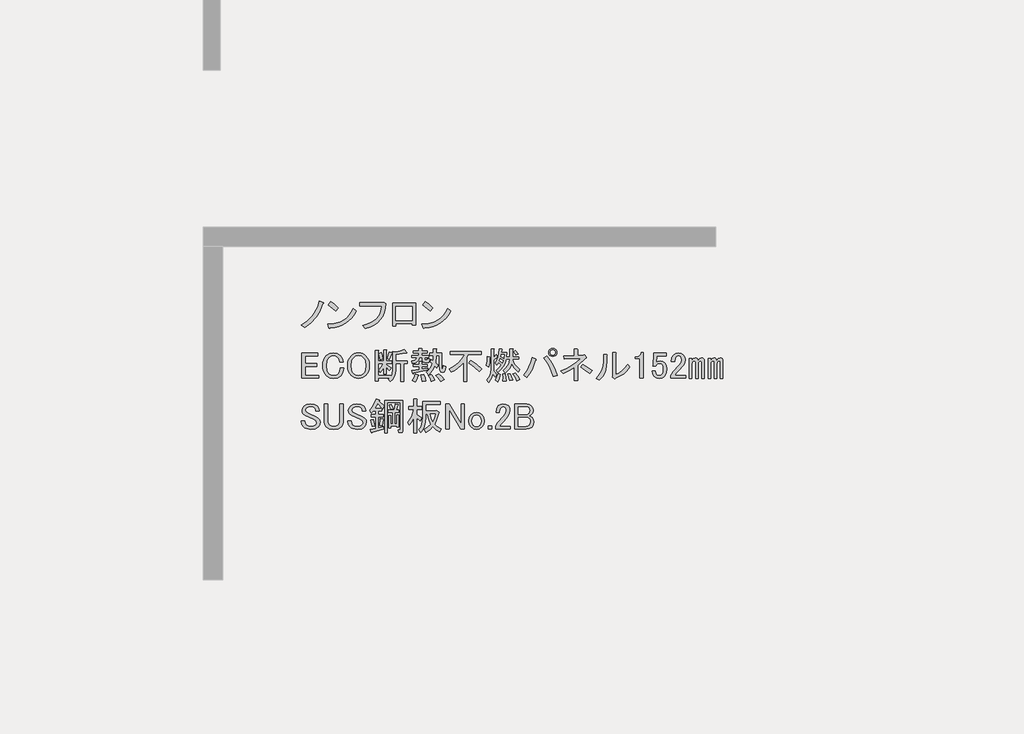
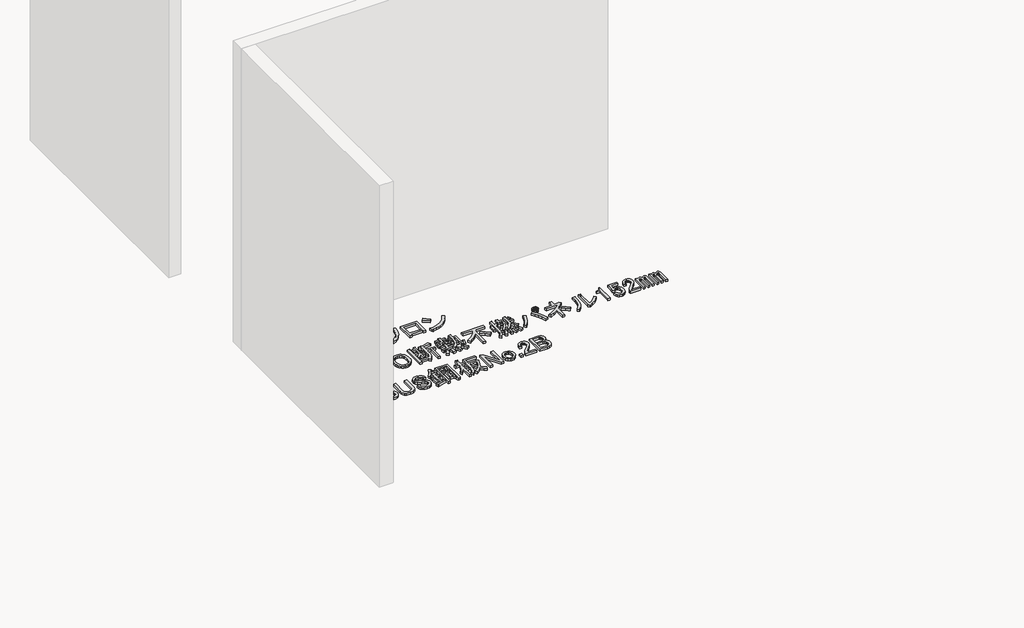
# One storey, part 53 of 117: 1 proxy.
"""IFC4 building model written with IfcOpenShell, lengths in millimetres."""

from ifc_helpers import new_model, si_unit, frame, origin, place, context, project, spatial, polyline, outline, extrude, element, save

model = new_model("IFC4")

# Units and contexts
model_context = context("Model", 3, world=origin())
ifc_project = project(units=[si_unit("LENGTHUNIT", "METRE", prefix="MILLI")], contexts=[model_context])

# Site, building, storey
site = spatial("IfcSite", under=ifc_project)
building = spatial("IfcBuilding", under=site)
storey = spatial("IfcBuildingStorey", under=building, Name="レベル 1", Elevation=500.0)

# Proxy
placement = place(None, origin())
element("IfcBuildingElementProxy", 1, Name="200㎜\u3000MS Pゴシック", ObjectType="200㎜\u3000MS Pゴシック", at=placement, inside=storey, context=model_context, shape_type="SweptSolid", body=[
    extrude(outline(polyline([(40940.1706985, -16603.5496882), (40914.5952502, -16663.3215225), (40886.146156, -16709.2998566), (40844.4782907, -16754.7034615), (40795.3389462, -16792.060858), (40767.7519457, -16770.2211493), (40815.4544673, -16739.7605029), (40855.1107805, -16701.2536481), (40872.4963381, -16677.3305462), (40887.8703435, -16649.2406577), (40901.2327969, -16616.9839827), (40912.5836981, -16580.5605212), (40943.6190736, -16594.3540214), (40946.7800841, -16598.9518548), (40940.1706985, -16603.5496882)])), frame((0.0, 0.0, 500.0), z_axis=(0.0, 0.0, 1.0), x_axis=(1.0, 0.0, 0.0)), (0.0, 0.0, 1.0), 25.0),
    extrude(outline(polyline([(41039.8977052, -16658.7236891), (40981.2753292, -16611.5958967), (41000.8161212, -16587.4572713), (41028.1157571, -16607.2854279), (41061.7374138, -16636.8839804), (41039.8977052, -16658.7236891)])), frame((0.0, 0.0, 500.0), z_axis=(0.0, 0.0, 1.0), x_axis=(1.0, 0.0, 0.0)), (0.0, 0.0, 1.0), 25.0),
    extrude(outline(polyline([(41201.9713328, -16658.7236891), (41185.447869, -16688.465924), (41166.3381239, -16714.4724192), (41144.6420975, -16736.7431748), (41120.3597898, -16755.2781907), (41093.4912008, -16770.077467), (41064.0363306, -16781.1410036), (41031.995179, -16788.4688006), (40997.3677461, -16792.060858), (40991.6204544, -16800.1070664), (40985.8731626, -16794.3597747), (40976.6774958, -16764.4738575), (41012.5082679, -16761.7977748), (41045.2857912, -16755.4937141), (41075.0100658, -16745.5616756), (41101.6810916, -16732.0016591), (41125.2988687, -16714.8136646), (41145.863397, -16693.9976923), (41163.3746766, -16669.553742), (41177.8327074, -16641.4818138), (41201.9713328, -16658.7236891)])), frame((0.0, 0.0, 500.0), z_axis=(0.0, 0.0, 1.0), x_axis=(1.0, 0.0, 0.0)), (0.0, 0.0, 1.0), 25.0),
    extrude(outline(polyline([(41252.7314136, -16773.6695243), (41286.514713, -16763.9889298), (41316.0234641, -16751.6142922), (41341.257667, -16736.5456116), (41362.2173217, -16718.782888), (41378.902428, -16698.3261214), (41391.3129862, -16675.1753118), (41399.4489961, -16649.3304591), (41403.3104577, -16620.7915635), (41230.8917049, -16620.7915635), (41230.8917049, -16595.5034798), (41405.6093744, -16595.5034798), (41421.7017914, -16592.0551047), (41434.3458332, -16603.5496882), (41430.825617, -16640.0449909), (41422.5638851, -16673.0919185), (41409.5606375, -16702.6904711), (41391.8158742, -16728.8406486), (41369.3295952, -16751.542451), (41342.1018005, -16770.7958784), (41310.1324901, -16786.6009308), (41273.421664, -16798.9576081), (41252.7314136, -16773.6695243)])), frame((0.0, 0.0, 500.0), z_axis=(0.0, 0.0, 1.0), x_axis=(1.0, 0.0, 0.0)), (0.0, 0.0, 1.0), 25.0),
    extrude(outline(polyline([(41667.455987, -16772.520066), (41641.0184449, -16772.520066), (41641.0184449, -16759.8760241), (41513.4285679, -16759.8760241), (41513.4285679, -16778.2673577), (41486.9910258, -16778.2673577), (41486.9910258, -16598.9518548), (41667.455987, -16598.9518548), (41667.455987, -16772.520066)]), holes=[polyline([(41513.4285679, -16624.2399386), (41513.4285679, -16734.5879404), (41641.0184449, -16734.5879404), (41641.0184449, -16624.2399386), (41513.4285679, -16624.2399386)])]), frame((0.0, 0.0, 500.0), z_axis=(0.0, 0.0, 1.0), x_axis=(1.0, 0.0, 0.0)), (0.0, 0.0, 1.0), 25.0),
    extrude(outline(polyline([(41943.5099049, -16658.7236891), (41926.9864411, -16688.465924), (41907.876696, -16714.4724192), (41886.1806696, -16736.7431748), (41861.8983619, -16755.2781907), (41835.0297729, -16770.077467), (41805.5749026, -16781.1410036), (41773.5337511, -16788.4688006), (41738.9063182, -16792.060858), (41733.1590264, -16800.1070664), (41727.4117347, -16794.3597747), (41718.2160679, -16764.4738575), (41754.0468399, -16761.7977748), (41786.8243633, -16755.4937141), (41816.5486378, -16745.5616756), (41843.2196637, -16732.0016591), (41866.8374407, -16714.8136646), (41887.4019691, -16693.9976923), (41904.9132486, -16669.553742), (41919.3712795, -16641.4818138), (41943.5099049, -16658.7236891)])), frame((0.0, 0.0, 500.0), z_axis=(0.0, 0.0, 1.0), x_axis=(1.0, 0.0, 0.0)), (0.0, 0.0, 1.0), 25.0),
    extrude(outline(polyline([(41781.4362772, -16658.7236891), (41722.8139013, -16611.5958967), (41742.3546933, -16587.4572713), (41769.6543291, -16607.2854279), (41803.2759859, -16636.8839804), (41781.4362772, -16658.7236891)])), frame((0.0, 0.0, 500.0), z_axis=(0.0, 0.0, 1.0), x_axis=(1.0, 0.0, 0.0)), (0.0, 0.0, 1.0), 25.0),
    extrude(outline(polyline([(40773.4992375, -16992.0551047), (40899.9396562, -16992.0551047), (40899.9396562, -17013.8948134), (40799.9367796, -17013.8948134), (40799.9367796, -17074.816106), (40893.0429061, -17074.816106), (40893.0429061, -17096.6558147), (40799.9367796, -17096.6558147), (40799.9367796, -17166.7727742), (40905.686948, -17166.7727742), (40905.686948, -17188.6124829), (40773.4992375, -17188.6124829), (40773.4992375, -16992.0551047)])), frame((0.0, 0.0, 500.0), z_axis=(0.0, 0.0, 1.0), x_axis=(1.0, 0.0, 0.0)), (0.0, 0.0, 1.0), 25.0),
    extrude(outline(polyline([(40937.7798252, -17090.908523), (40939.5758538, -17066.985421), (40944.9639399, -17045.7922827), (40953.9440832, -17027.3291079), (40966.516284, -17011.5958967), (40991.5170031, -16995.2161152), (41022.8397432, -16989.756188), (41053.5877541, -16994.641386), (41076.8642858, -17009.29698), (41092.6693381, -17032.8608762), (41098.7039944, -17062.1720642), (41071.116994, -17062.1720642), (41066.231796, -17040.9070847), (41056.1740354, -17025.3893969), (41040.9437123, -17015.0442717), (41022.8397432, -17011.5958967), (41003.2989512, -17015.6190009), (40986.0570759, -17027.6883136), (40977.0050914, -17039.3984206), (40970.5393882, -17053.8384911), (40965.3668256, -17090.908523), (40970.5393882, -17127.9785548), (40977.0050914, -17142.4186254), (40986.0570759, -17154.1287323), (41002.7242221, -17165.3359513), (41022.8397432, -17169.0716909), (41043.242629, -17165.9106804), (41058.4729521, -17156.427649), (41070.5422648, -17136.8868571), (41074.5653691, -17110.449315), (41102.1523695, -17110.449315), (41095.8303486, -17145.2204301), (41088.7899162, -17159.3731361), (41079.1632025, -17171.3706076), (41068.3151893, -17179.9197041), (41055.3119417, -17186.0262016), (41022.8397432, -17190.9113996), (40991.5170031, -17185.4514724), (40966.516284, -17169.0716909), (40953.9440832, -17153.4103209), (40944.9639399, -17135.1626695), (40939.5758538, -17114.3287369), (40937.7798252, -17090.908523)])), frame((0.0, 0.0, 500.0), z_axis=(0.0, 0.0, 1.0), x_axis=(1.0, 0.0, 0.0)), (0.0, 0.0, 1.0), 25.0),
    extrude(outline(polyline([(41133.1417667, -17089.7590646), (41134.8659542, -17066.9135799), (41140.0385168, -17046.6543764), (41148.6594544, -17028.9814543), (41160.7287671, -17013.8948134), (41173.4446501, -17003.3341648), (41187.4536738, -16995.7908443), (41202.7558381, -16991.2648521), (41219.3511431, -16989.756188), (41235.946448, -16991.2648521), (41251.2486123, -16995.7908443), (41265.257636, -17003.3341648), (41277.973519, -17013.8948134), (41290.0428317, -17028.9814543), (41298.6637694, -17046.6543764), (41303.836332, -17066.9135799), (41305.5605195, -17089.7590646), (41303.836332, -17112.6045494), (41298.6637694, -17132.8637528), (41290.0428317, -17150.536675), (41277.973519, -17165.6233159), (41265.257636, -17176.1839645), (41251.2486123, -17183.7272849), (41235.946448, -17188.2532772), (41219.3511431, -17189.7619413), (41202.7558381, -17188.2532772), (41187.4536738, -17183.7272849), (41173.4446501, -17176.1839645), (41160.7287671, -17165.6233159), (41148.6594544, -17150.536675), (41140.0385168, -17132.8637528), (41134.8659542, -17112.6045494), (41133.1417667, -17089.7590646)]), holes=[polyline([(41219.3511431, -17011.5958967), (41198.6608927, -17015.9063655), (41180.2695591, -17028.837772), (41171.7204626, -17039.9731498), (41165.6139651, -17053.8384911), (41160.7287671, -17089.7590646), (41165.6139651, -17125.6796381), (41171.7204626, -17139.5449795), (41180.2695591, -17150.6803573), (41198.6608927, -17163.6117637), (41219.3511431, -17167.9222326), (41240.0413934, -17163.6117637), (41258.432727, -17150.6803573), (41266.9818235, -17139.5449795), (41273.088321, -17125.6796381), (41277.973519, -17089.7590646), (41273.088321, -17053.8384911), (41266.9818235, -17039.9731498), (41258.432727, -17028.837772), (41240.0413934, -17015.9063655), (41219.3511431, -17011.5958967)])]), frame((0.0, 0.0, 500.0), z_axis=(0.0, 0.0, 1.0), x_axis=(1.0, 0.0, 0.0)), (0.0, 0.0, 1.0), 25.0),
    extrude(outline(polyline([(41444.3691101, -17035.7345221), (41461.6109854, -16982.8594379), (41482.3012357, -16988.6067296), (41484.0254232, -16991.7677401), (41480.002319, -16994.3540214), (41462.7604437, -17042.6312722), (41444.3691101, -17035.7345221)])), frame((0.0, 0.0, 500.0), z_axis=(0.0, 0.0, 1.0), x_axis=(1.0, 0.0, 0.0)), (0.0, 0.0, 1.0), 25.0),
    extrude(outline(polyline([(41598.3965292, -16987.4572713), (41596.6723417, -16992.0551047), (41589.2008624, -16989.756188), (41512.1871528, -17002.4002299), (41512.1871528, -17051.826939), (41604.143821, -17051.826939), (41604.143821, -17073.6666477), (41573.1084455, -17073.6666477), (41573.1084455, -17213.9005666), (41550.1192785, -17213.9005666), (41550.1192785, -17073.6666477), (41512.1871528, -17073.6666477), (41512.1871528, -17123.0933568), (41509.6008716, -17150.8958807), (41501.8420277, -17175.6810764), (41488.9106212, -17197.448944), (41470.8066522, -17216.1994833), (41453.5647769, -17196.6586914), (41463.9099021, -17187.4630245), (41374.2521506, -17187.4630245), (41374.2521506, -17209.3027332), (41351.2629836, -17209.3027332), (41351.2629836, -16970.215396), (41373.1026922, -16970.215396), (41377.9878902, -16972.5143127), (41374.2521506, -16977.1121461), (41374.2521506, -17052.9763974), (41416.7821096, -17052.9763974), (41416.7821096, -16965.6175626), (41435.1734433, -16965.6175626), (41440.0586413, -16967.9164793), (41436.3229016, -16972.5143127), (41436.3229016, -17052.9763974), (41480.002319, -17052.9763974), (41480.002319, -17071.367731), (41436.3229016, -17071.367731), (41436.3229016, -17080.5633978), (41476.5539439, -17107.0009399), (41462.7604437, -17128.8406486), (41436.3229016, -17102.4031065), (41436.3229016, -17155.2781907), (41416.7821096, -17155.2781907), (41416.7821096, -17107.0009399), (41403.5633386, -17126.8290965), (41389.1951092, -17142.6341488), (41376.5510673, -17124.2428152), (41398.390776, -17100.1041898), (41415.6326513, -17071.367731), (41374.2521506, -17071.367731), (41374.2521506, -17165.6233159), (41471.9561105, -17165.6233159), (41471.9561105, -17179.4168161), (41484.887517, -17155.2781907), (41489.1979858, -17121.9438985), (41489.1979858, -16977.1121461), (41511.0376945, -16982.8594379), (41547.2456326, -16975.3879586), (41577.7062789, -16962.1691875), (41598.3965292, -16987.4572713)])), frame((0.0, 0.0, 500.0), z_axis=(0.0, 0.0, 1.0), x_axis=(1.0, 0.0, 0.0)), (0.0, 0.0, 1.0), 25.0),
    extrude(outline(polyline([(41390.3445675, -17043.7807305), (41377.7005257, -16993.2045631), (41397.2413176, -16986.3078129), (41405.0001615, -17010.4464383), (41409.8853595, -17036.8839804), (41390.3445675, -17043.7807305)])), frame((0.0, 0.0, 500.0), z_axis=(0.0, 0.0, 1.0), x_axis=(1.0, 0.0, 0.0)), (0.0, 0.0, 1.0), 25.0),
    extrude(outline(polyline([(41734.0326148, -17159.8760241), (41744.0903754, -17187.17566), (41748.9755734, -17209.3027332), (41720.2391146, -17215.050025), (41717.6528333, -17193.4976809), (41709.8939894, -17163.3243992), (41734.0326148, -17159.8760241)])), frame((0.0, 0.0, 500.0), z_axis=(0.0, 0.0, 1.0), x_axis=(1.0, 0.0, 0.0)), (0.0, 0.0, 1.0), 25.0),
    extrude(outline(polyline([(41790.356074, -17212.7511083), (41782.022501, -17188.0377537), (41768.5163654, -17166.7727742), (41789.2066157, -17158.7265657), (41806.1611264, -17180.2789098), (41817.9430745, -17203.5554415), (41790.356074, -17212.7511083)])), frame((0.0, 0.0, 500.0), z_axis=(0.0, 0.0, 1.0), x_axis=(1.0, 0.0, 0.0)), (0.0, 0.0, 1.0), 25.0),
    extrude(outline(polyline([(41689.2037391, -17164.4738575), (41692.6521141, -17169.3590555), (41686.9048224, -17172.520066), (41677.1344264, -17198.0955143), (41666.214572, -17217.3489417), (41643.225405, -17205.8543582), (41655.8694469, -17182.290462), (41666.214572, -17155.2781907), (41689.2037391, -17164.4738575)])), frame((0.0, 0.0, 500.0), z_axis=(0.0, 0.0, 1.0), x_axis=(1.0, 0.0, 0.0)), (0.0, 0.0, 1.0), 25.0),
    extrude(outline(polyline([(41721.3885729, -17027.6883136), (41696.1004892, -17027.6883136), (41691.5026558, -17045.1457123), (41681.1575306, -17058.4363245), (41665.0651137, -17067.5601502), (41643.225405, -17072.5171893), (41638.6275716, -17052.9763974), (41663.9156553, -17044.3554597), (41671.3871346, -17037.0276627), (41675.4102388, -17027.6883136), (41639.7770299, -17027.6883136), (41639.7770299, -17009.29698), (41693.8015725, -17009.29698), (41693.8015725, -16992.0551047), (41650.1221551, -16992.0551047), (41650.1221551, -16973.6637711), (41693.8015725, -16973.6637711), (41693.8015725, -16955.2724374), (41715.6412812, -16955.2724374), (41720.5264792, -16957.5713541), (41716.7907395, -16962.1691875), (41716.7907395, -16973.6637711), (41759.3206985, -16973.6637711), (41759.3206985, -16992.0551047), (41716.7907395, -16992.0551047), (41716.7907395, -17009.29698), (41769.6658237, -17009.29698), (41769.6658237, -17027.6883136), (41740.9293649, -17027.6883136), (41740.9293649, -17040.3323555), (41742.3661878, -17045.5049181), (41746.6766567, -17047.2291056), (41757.0217818, -17047.2291056), (41760.7575215, -17044.0680951), (41760.4701569, -17034.5850637), (41780.0109489, -17036.8839804), (41777.137303, -17058.4363245), (41771.8210581, -17063.8244106), (41763.9185319, -17065.6204392), (41739.7799066, -17065.6204392), (41725.9864063, -17060.7352412), (41721.3885729, -17046.0796472), (41721.3885729, -17027.6883136)])), frame((0.0, 0.0, 500.0), z_axis=(0.0, 0.0, 1.0), x_axis=(1.0, 0.0, 0.0)), (0.0, 0.0, 1.0), 25.0),
    extrude(outline(polyline([(41852.4268251, -17010.4464383), (41830.5871164, -17010.4464383), (41825.989283, -17067.9193559), (41845.5300749, -17086.3106896), (41835.1849498, -17108.1503983), (41819.0925328, -17092.0579813), (41799.8391054, -17129.7027424), (41769.6658237, -17162.1749408), (41752.4239484, -17141.4846905), (41767.5105893, -17129.5590601), (41780.585678, -17114.4724192), (41791.6492147, -17096.2247679), (41800.7011992, -17074.816106), (41783.4593239, -17059.8731475), (41791.5055324, -17042.6312722), (41805.2990326, -17052.9763974), (41807.5979493, -17010.4464383), (41780.0109489, -17010.4464383), (41780.0109489, -16992.0551047), (41807.5979493, -16992.0551047), (41807.5979493, -16957.5713541), (41829.437658, -16957.5713541), (41834.322856, -16959.8702708), (41830.5871164, -16964.4681043), (41830.5871164, -16992.0551047), (41871.967617, -16992.0551047), (41871.967617, -17088.6096063), (41875.4159921, -17112.7482317), (41878.6488437, -17114.7597838), (41881.4506484, -17111.5987733), (41885.7611173, -17089.7590646), (41905.3019092, -17096.6558147), (41900.775917, -17123.4525626), (41892.945232, -17139.4731384), (41881.8098542, -17144.7175421), (41867.3697836, -17139.1857738), (41860.8322393, -17131.8579768), (41856.1625647, -17120.219711), (41852.4268251, -17084.0117729), (41852.4268251, -17010.4464383)])), frame((0.0, 0.0, 500.0), z_axis=(0.0, 0.0, 1.0), x_axis=(1.0, 0.0, 0.0)), (0.0, 0.0, 1.0), 25.0),
    extrude(outline(polyline([(41651.2716134, -17149.5308989), (41649.2600613, -17154.4160969), (41645.5243217, -17152.979274), (41639.7770299, -17128.8406486), (41694.9510308, -17120.7944401), (41694.9510308, -17097.8052731), (41651.2716134, -17097.8052731), (41651.2716134, -17079.4139395), (41694.9510308, -17079.4139395), (41694.9510308, -17056.4247724), (41713.3423645, -17056.4247724), (41718.2275625, -17058.7236891), (41714.4918228, -17063.3215225), (41714.4918228, -17079.4139395), (41759.3206985, -17079.4139395), (41759.3206985, -17097.8052731), (41714.4918228, -17097.8052731), (41714.4918228, -17117.3460651), (41765.0679903, -17108.1503983), (41765.0679903, -17124.2428152), (41651.2716134, -17149.5308989)])), frame((0.0, 0.0, 500.0), z_axis=(0.0, 0.0, 1.0), x_axis=(1.0, 0.0, 0.0)), (0.0, 0.0, 1.0), 25.0),
    extrude(outline(polyline([(41848.97845, -17154.1287323), (41873.6918046, -17175.3937119), (41892.6578674, -17200.1070664), (41866.2203253, -17215.050025), (41846.9668979, -17185.4514724), (41828.2881997, -17165.6233159), (41848.97845, -17154.1287323)])), frame((0.0, 0.0, 500.0), z_axis=(0.0, 0.0, 1.0), x_axis=(1.0, 0.0, 0.0)), (0.0, 0.0, 1.0), 25.0),
    extrude(outline(polyline([(42167.3784135, -17138.0363154), (42128.2968295, -17099.8168252), (42086.9163289, -17070.2182726), (42103.0087458, -17049.5280223), (42146.6881632, -17077.6897519), (42188.0686638, -17116.1966067), (42167.3784135, -17138.0363154)])), frame((0.0, 0.0, 500.0), z_axis=(0.0, 0.0, 1.0), x_axis=(1.0, 0.0, 0.0)), (0.0, 0.0, 1.0), 25.0),
    extrude(outline(polyline([(41940.9351182, -16977.1121461), (42182.3213721, -16977.1121461), (42182.3213721, -17002.4002299), (42082.3184955, -17002.4002299), (42071.9733703, -17026.5388553), (42071.9733703, -17212.7511083), (42045.5358282, -17212.7511083), (42045.5358282, -17065.6204392), (42024.7018956, -17088.8969709), (42001.2816816, -17109.2998566), (41975.2751864, -17126.8290965), (41946.6824099, -17141.4846905), (41930.589993, -17115.0471484), (41970.174465, -17094.6442626), (42003.8679629, -17069.0688143), (42031.6704868, -17038.3208034), (42053.5820367, -17002.4002299), (41940.9351182, -17002.4002299), (41940.9351182, -16977.1121461)])), frame((0.0, 0.0, 500.0), z_axis=(0.0, 0.0, 1.0), x_axis=(1.0, 0.0, 0.0)), (0.0, 0.0, 1.0), 25.0),
    extrude(outline(polyline([(42354.7401249, -17211.6016499), (42355.3148541, -17184.5893787), (42352.4412082, -17156.427649), (42371.9820002, -17155.2781907), (42378.3040211, -17181.4283682), (42378.8787503, -17209.3027332), (42354.7401249, -17211.6016499)])), frame((0.0, 0.0, 500.0), z_axis=(0.0, 0.0, 1.0), x_axis=(1.0, 0.0, 0.0)), (0.0, 0.0, 1.0), 25.0),
    extrude(outline(polyline([(42335.1993329, -17159.8760241), (42326.5783953, -17190.3366704), (42312.2101659, -17217.3489417), (42292.6693739, -17204.7048998), (42306.7502387, -17179.9915453), (42316.8079993, -17151.8298156), (42335.1993329, -17159.8760241)])), frame((0.0, 0.0, 500.0), z_axis=(0.0, 0.0, 1.0), x_axis=(1.0, 0.0, 0.0)), (0.0, 0.0, 1.0), 25.0),
    extrude(outline(polyline([(42250.1394149, -17021.9410219), (42254.7372483, -17024.2399386), (42250.1394149, -17028.837772), (42248.9899565, -17068.4940851), (42243.2426647, -17102.4031065), (42224.8513311, -17089.7590646), (42230.5986229, -17055.2753141), (42231.7480812, -17018.4926468), (42250.1394149, -17021.9410219)])), frame((0.0, 0.0, 500.0), z_axis=(0.0, 0.0, 1.0), x_axis=(1.0, 0.0, 0.0)), (0.0, 0.0, 1.0), 25.0),
    extrude(outline(polyline([(42301.8650407, -17003.5496882), (42311.0607075, -17020.7915635), (42312.4975305, -17026.8262199), (42307.6123325, -17026.5388553), (42281.1747904, -17047.2291056), (42281.1747904, -17131.1395653), (42294.9682906, -17143.4962426), (42306.4628741, -17159.8760241), (42293.8188322, -17180.5662744), (42275.4274986, -17155.2781907), (42263.6455505, -17191.1987642), (42242.0932064, -17220.7973168), (42227.1502478, -17202.4059831), (42242.2368887, -17183.6554438), (42253.0130607, -17163.0370346), (42259.478764, -17140.5507556), (42261.6339984, -17116.1966067), (42261.6339984, -16958.7208125), (42280.025332, -16958.7208125), (42284.91053, -16961.0197292), (42281.1747904, -16965.6175626), (42281.1747904, -17024.2399386), (42301.8650407, -17003.5496882)])), frame((0.0, 0.0, 500.0), z_axis=(0.0, 0.0, 1.0), x_axis=(1.0, 0.0, 0.0)), (0.0, 0.0, 1.0), 25.0),
    extrude(outline(polyline([(42452.4440848, -16972.5143127), (42474.2837935, -16996.6529381), (42457.0419182, -17008.1475216), (42450.4325327, -16996.6529381), (42437.5011262, -16982.8594379), (42452.4440848, -16972.5143127)])), frame((0.0, 0.0, 500.0), z_axis=(0.0, 0.0, 1.0), x_axis=(1.0, 0.0, 0.0)), (0.0, 0.0, 1.0), 25.0),
    extrude(outline(polyline([(42462.78921, -17209.3027332), (42449.5704389, -17181.1410036), (42432.9032928, -17156.427649), (42451.2946265, -17148.3814406), (42470.2606893, -17171.3706076), (42485.778377, -17198.9576081), (42462.78921, -17209.3027332)])), frame((0.0, 0.0, 500.0), z_axis=(0.0, 0.0, 1.0), x_axis=(1.0, 0.0, 0.0)), (0.0, 0.0, 1.0), 25.0),
    extrude(outline(polyline([(42413.3625008, -17154.1287323), (42431.7538345, -17203.5554415), (42407.6152091, -17208.1532749), (42393.8217089, -17157.5771074), (42413.3625008, -17154.1287323)])), frame((0.0, 0.0, 500.0), z_axis=(0.0, 0.0, 1.0), x_axis=(1.0, 0.0, 0.0)), (0.0, 0.0, 1.0), 25.0),
    extrude(outline(polyline([(42474.2837935, -17139.1857738), (42443.5357826, -17108.7251274), (42422.5581677, -17074.816106), (42414.1527535, -17096.9431793), (42402.7300111, -17116.1966067), (42388.2899405, -17132.5763882), (42370.8325418, -17146.0825239), (42357.0390416, -17127.6911902), (42377.8729742, -17108.7969686), (42393.2469797, -17087.7475125), (42403.161058, -17064.542822), (42407.6152091, -17039.1828971), (42378.8787503, -17039.1828971), (42370.904383, -17069.7872258), (42357.3264062, -17097.2305439), (42338.1448199, -17121.5128516), (42313.3596242, -17142.6341488), (42300.7155823, -17126.5417319), (42326.5783953, -17104.9893878), (42342.096083, -17084.0117729), (42320.2563743, -17064.4709809), (42306.4628741, -17085.1612312), (42292.6693739, -17070.2182726), (42305.0978923, -17051.1803687), (42314.7964472, -17026.2514907), (42321.7650384, -16995.4316386), (42326.0036661, -16958.7208125), (42346.6939164, -16961.0197292), (42350.1422915, -16963.6060105), (42344.3949997, -16966.767021), (42342.096083, -16985.1583546), (42385.7755004, -16985.1583546), (42382.3271253, -17020.7915635), (42407.6152091, -17020.7915635), (42407.6152091, -16958.7208125), (42429.4549178, -16958.7208125), (42434.3401158, -16961.0197292), (42430.6043761, -16965.6175626), (42430.6043761, -17020.7915635), (42480.0310853, -17020.7915635), (42480.0310853, -17039.1828971), (42430.6043761, -17039.1828971), (42437.1419205, -17060.9507647), (42448.7083452, -17081.4254916), (42465.3036501, -17100.6070778), (42486.9278354, -17118.4955234), (42474.2837935, -17139.1857738)]), holes=[polyline([(42350.1422915, -17069.0688143), (42357.0390416, -17049.5280223), (42331.7509579, -17033.4356054), (42326.0036661, -17050.6774807), (42350.1422915, -17069.0688143)]), polyline([(42339.7971663, -17003.5496882), (42336.3487913, -17019.6421052), (42361.636875, -17033.4356054), (42366.2347084, -17003.5496882), (42339.7971663, -17003.5496882)])]), frame((0.0, 0.0, 500.0), z_axis=(0.0, 0.0, 1.0), x_axis=(1.0, 0.0, 0.0)), (0.0, 0.0, 1.0), 25.0),
    extrude(outline(polyline([(42699.5776305, -17012.745355), (42726.230696, -17049.4561812), (42748.7169751, -17087.1727833), (42767.0364675, -17125.8951616), (42781.1891735, -17165.6233159), (42750.153798, -17175.968441), (42734.7079514, -17132.8637528), (42717.1068704, -17094.356898), (42697.3505549, -17060.4478766), (42675.4390051, -17031.1366887), (42699.5776305, -17012.745355)])), frame((0.0, 0.0, 500.0), z_axis=(0.0, 0.0, 1.0), x_axis=(1.0, 0.0, 0.0)), (0.0, 0.0, 1.0), 25.0),
    extrude(outline(polyline([(42612.2187958, -17039.1828971), (42616.2419, -17044.6428243), (42609.919879, -17049.5280223), (42597.9942486, -17084.9457078), (42582.9076078, -17118.782888), (42564.6599564, -17151.039563), (42543.2512946, -17181.7157328), (42516.8137525, -17164.4738575), (42540.018443, -17133.0074351), (42559.056347, -17099.5294606), (42573.9274644, -17064.039934), (42584.6317953, -17026.5388553), (42612.2187958, -17039.1828971)])), frame((0.0, 0.0, 500.0), z_axis=(0.0, 0.0, 1.0), x_axis=(1.0, 0.0, 0.0)), (0.0, 0.0, 1.0), 25.0),
    extrude(outline(polyline([(42745.5559646, -17018.4926468), (42732.9119227, -17016.1937301), (42722.5667975, -17009.29698), (42715.6700474, -16998.9518548), (42713.3711307, -16986.3078129), (42715.6700474, -16973.6637711), (42722.5667975, -16963.3186459), (42732.9119227, -16956.4218958), (42745.5559646, -16954.1229791), (42758.2000065, -16956.4218958), (42768.5451316, -16963.3186459), (42775.4418817, -16973.6637711), (42777.7407984, -16986.3078129), (42775.4418817, -16998.9518548), (42768.5451316, -17009.29698), (42758.2000065, -17016.1937301), (42745.5559646, -17018.4926468)]), holes=[polyline([(42745.5559646, -17006.9980633), (42753.8895376, -17005.5612403), (42760.4989232, -17001.2507715), (42764.809392, -16994.641386), (42766.2462149, -16986.3078129), (42764.809392, -16977.9742399), (42760.4989232, -16971.3648544), (42753.8895376, -16967.0543855), (42745.5559646, -16965.6175626), (42737.2223915, -16967.0543855), (42730.613006, -16971.3648544), (42726.3025372, -16977.9742399), (42724.8657143, -16986.3078129), (42726.3025372, -16994.641386), (42730.613006, -17001.2507715), (42737.2223915, -17005.5612403), (42745.5559646, -17006.9980633)])]), frame((0.0, 0.0, 500.0), z_axis=(0.0, 0.0, 1.0), x_axis=(1.0, 0.0, 0.0)), (0.0, 0.0, 1.0), 25.0),
    extrude(outline(polyline([(42989.2411352, -17008.1475216), (42996.1378853, -17005.8486049), (43008.7819272, -17023.0904802), (43009.9313856, -17029.1251366), (43004.1840938, -17031.1366887), (42940.9638844, -17087.4601479), (42940.9638844, -17208.1532749), (42914.5263423, -17208.1532749), (42914.5263423, -17105.8514816), (42874.2953, -17129.9901069), (42829.4664243, -17151.8298156), (42809.9256323, -17131.1395653), (42855.4729195, -17111.6706145), (42896.7097379, -17088.8969709), (42933.6360874, -17062.8186345), (42966.2519682, -17033.4356054), (42836.3631744, -17039.1828971), (42832.9147993, -17013.8948134), (42914.5263423, -17011.5958967), (42914.5263423, -16959.8702708), (42937.5155094, -16959.8702708), (42943.5501657, -16963.3186459), (42940.9638844, -16969.0659377), (42940.9638844, -17010.4464383), (42989.2411352, -17008.1475216)])), frame((0.0, 0.0, 500.0), z_axis=(0.0, 0.0, 1.0), x_axis=(1.0, 0.0, 0.0)), (0.0, 0.0, 1.0), 25.0),
    extrude(outline(polyline([(43035.2194693, -17151.8298156), (42998.1494375, -17122.5186277), (42965.1025098, -17101.2536481), (42982.3443851, -17079.4139395), (43021.1386045, -17102.6904711), (43054.7602613, -17128.8406486), (43035.2194693, -17151.8298156)])), frame((0.0, 0.0, 500.0), z_axis=(0.0, 0.0, 1.0), x_axis=(1.0, 0.0, 0.0)), (0.0, 0.0, 1.0), 25.0),
    extrude(outline(polyline([(43242.2139293, -17158.7265657), (43266.9991251, -17146.5135708), (43290.7785447, -17129.4153778), (43313.5521883, -17107.4319868), (43335.3200559, -17080.5633978), (43351.4124728, -17102.4031065), (43328.1359412, -17130.2056304), (43301.9857636, -17153.8413678), (43272.9619403, -17173.3103186), (43241.064471, -17188.6124829), (43231.8688042, -17193.2103163), (43213.4774705, -17179.4168161), (43215.7763872, -17173.6695243), (43215.7763872, -16988.6067296), (43239.9150126, -16988.6067296), (43245.6623044, -16992.0551047), (43242.2139293, -16997.8023965), (43242.2139293, -17158.7265657)])), frame((0.0, 0.0, 500.0), z_axis=(0.0, 0.0, 1.0), x_axis=(1.0, 0.0, 0.0)), (0.0, 0.0, 1.0), 25.0),
    extrude(outline(polyline([(43088.1865102, -17189.7619413), (43113.3309116, -17160.5225944), (43131.2911984, -17127.9785548), (43142.0673704, -17092.1298225), (43145.6594278, -17052.9763974), (43145.6594278, -17001.2507715), (43169.7980532, -17001.2507715), (43175.5453449, -17004.6991466), (43172.0969699, -17010.4464383), (43172.0969699, -17051.826939), (43168.2893891, -17097.5897496), (43156.8666467, -17138.32368), (43137.8287427, -17174.0287301), (43111.1756772, -17204.7048998), (43088.1865102, -17189.7619413)])), frame((0.0, 0.0, 500.0), z_axis=(0.0, 0.0, 1.0), x_axis=(1.0, 0.0, 0.0)), (0.0, 0.0, 1.0), 25.0),
    extrude(outline(polyline([(43430.7250991, -17011.5958967), (43438.7713075, -17000.6760423), (43442.2196826, -16988.6067296), (43456.0131828, -16988.6067296), (43456.0131828, -17187.4630245), (43429.5756407, -17187.4630245), (43429.5756407, -17034.5850637), (43395.0918902, -17034.5850637), (43395.0918902, -17020.7915635), (43405.4370153, -17020.7915635), (43419.8052447, -17018.4926468), (43430.7250991, -17011.5958967)])), frame((0.0, 0.0, 500.0), z_axis=(0.0, 0.0, 1.0), x_axis=(1.0, 0.0, 0.0)), (0.0, 0.0, 1.0), 25.0),
    extrude(outline(polyline([(43539.9236425, -16992.0551047), (43638.7770608, -16992.0551047), (43638.7770608, -17013.8948134), (43561.7633512, -17013.8948134), (43561.7633512, -17017.3431884), (43558.3149762, -17059.8731475), (43557.1655178, -17066.7698976), (43572.6832056, -17056.4247724), (43589.3503517, -17052.9763974), (43610.3279666, -17056.712137), (43627.2824773, -17067.9193559), (43639.35179, -17087.7475125), (43643.3748942, -17115.0471484), (43638.2023316, -17149.5308989), (43631.7366284, -17163.3243992), (43622.6846439, -17174.8189827), (43604.5806748, -17186.8882954), (43582.4536015, -17190.9113996), (43561.4759866, -17187.17566), (43544.5214759, -17175.968441), (43532.4521632, -17157.2897428), (43526.1301423, -17131.1395653), (43552.5676844, -17131.1395653), (43556.5907886, -17149.8182635), (43564.0622679, -17162.1749408), (43571.8211118, -17167.3475034), (43581.3041432, -17169.0716909), (43593.6608205, -17167.0601388), (43603.1438519, -17161.0254825), (43612.6268833, -17144.0709718), (43615.7878938, -17118.4955234), (43613.2016125, -17094.356898), (43605.4427686, -17079.4139395), (43597.9712893, -17074.2413769), (43589.3503517, -17072.5171893), (43576.4189452, -17075.1034706), (43565.2117263, -17082.8623145), (43556.0160594, -17093.2074397), (43533.0268924, -17093.2074397), (43534.1763508, -17085.1612312), (43539.9236425, -16996.6529381), (43539.9236425, -16992.0551047)])), frame((0.0, 0.0, 500.0), z_axis=(0.0, 0.0, 1.0), x_axis=(1.0, 0.0, 0.0)), (0.0, 0.0, 1.0), 25.0),
    extrude(outline(polyline([(43677.8586448, -17058.7236891), (43682.4564782, -17027.400949), (43696.2499784, -17004.6991466), (43712.6297599, -16993.4919276), (43731.8831873, -16989.756188), (43754.5849898, -16993.4919276), (43772.1142296, -17004.6991466), (43783.3214486, -17021.3662927), (43787.0571882, -17041.4818138), (43782.7467194, -17067.3446268), (43769.8153129, -17089.7590646), (43736.4810207, -17127.6911902), (43718.0896871, -17148.3814406), (43704.2961869, -17166.7727742), (43790.5055633, -17166.7727742), (43790.5055633, -17188.6124829), (43673.2608114, -17188.6124829), (43673.2608114, -17169.0716909), (43679.2954677, -17155.2781907), (43692.8016033, -17136.8868571), (43739.9293958, -17085.1612312), (43754.5849898, -17063.8962517), (43759.4701878, -17041.4818138), (43757.1712711, -17028.837772), (43750.2745209, -17018.4926468), (43742.5156771, -17013.3200842), (43733.0326457, -17011.5958967), (43724.411708, -17013.3200842), (43716.9402287, -17018.4926468), (43707.4571973, -17034.8724283), (43704.2961869, -17058.7236891), (43677.8586448, -17058.7236891)])), frame((0.0, 0.0, 500.0), z_axis=(0.0, 0.0, 1.0), x_axis=(1.0, 0.0, 0.0)), (0.0, 0.0, 1.0), 25.0),
    extrude(outline(polyline([(43839.9322724, -17189.7619413), (43820.3914804, -17189.7619413), (43820.3914804, -17032.286147), (43839.9322724, -17032.286147), (43839.9322724, -17049.5280223), (43852.0015851, -17034.0103346), (43865.2203561, -17028.837772), (43874.416023, -17030.2745949), (43881.3127731, -17034.5850637), (43888.2095232, -17048.378564), (43901.1409296, -17033.72297), (43914.6470653, -17028.837772), (43922.9806383, -17030.2745949), (43929.5900239, -17034.5850637), (43934.7625864, -17043.2060014), (43936.486774, -17055.2753141), (43936.486774, -17189.7619413), (43916.945982, -17189.7619413), (43916.945982, -17065.6204392), (43914.3597007, -17056.1374078), (43906.6008568, -17052.9763974), (43896.2557317, -17057.5742308), (43890.2210753, -17066.1951684), (43888.2095232, -17075.9655644), (43888.2095232, -17189.7619413), (43868.6687312, -17189.7619413), (43868.6687312, -17065.6204392), (43866.0824499, -17056.1374078), (43858.323606, -17052.9763974), (43847.9784809, -17057.5742308), (43841.9438245, -17066.1951684), (43839.9322724, -17075.9655644), (43839.9322724, -17189.7619413)])), frame((0.0, 0.0, 500.0), z_axis=(0.0, 0.0, 1.0), x_axis=(1.0, 0.0, 0.0)), (0.0, 0.0, 1.0), 25.0),
    extrude(outline(polyline([(44061.7777343, -17028.837772), (44070.1113074, -17030.2745949), (44076.7206929, -17034.5850637), (44081.8932555, -17043.2060014), (44083.617443, -17055.2753141), (44083.617443, -17189.7619413), (44064.0766511, -17189.7619413), (44064.0766511, -17065.6204392), (44061.4903698, -17056.1374078), (44053.7315259, -17052.9763974), (44043.3864007, -17057.5742308), (44037.3517444, -17066.1951684), (44035.3401922, -17075.9655644), (44035.3401922, -17189.7619413), (44015.7994003, -17189.7619413), (44015.7994003, -17065.6204392), (44013.213119, -17056.1374078), (44005.4542751, -17052.9763974), (43995.1091499, -17057.5742308), (43989.0744936, -17066.1951684), (43987.0629415, -17075.9655644), (43987.0629415, -17189.7619413), (43967.5221495, -17189.7619413), (43967.5221495, -17032.286147), (43987.0629415, -17032.286147), (43987.0629415, -17049.5280223), (43999.1322542, -17034.0103346), (44012.3510252, -17028.837772), (44021.546692, -17030.2745949), (44028.4434421, -17034.5850637), (44035.3401922, -17048.378564), (44048.2715987, -17033.72297), (44061.7777343, -17028.837772)])), frame((0.0, 0.0, 500.0), z_axis=(0.0, 0.0, 1.0), x_axis=(1.0, 0.0, 0.0)), (0.0, 0.0, 1.0), 25.0),
    extrude(outline(polyline([(40775.7981542, -17443.7807305), (40779.8212584, -17423.3778448), (40791.8905711, -17405.8486049), (40812.2934569, -17393.7792922), (40841.3172803, -17389.756188), (40872.6400204, -17394.3540214), (40895.3418228, -17408.1475216), (40907.4111355, -17425.6767615), (40911.4342397, -17446.0796472), (40884.9966976, -17446.0796472), (40882.6977809, -17433.4356054), (40875.8010308, -17423.0904802), (40862.5822598, -17415.3316363), (40843.616197, -17412.745355), (40823.2133112, -17415.0442717), (40810.2819048, -17421.9410219), (40804.2472484, -17430.5619595), (40802.2356963, -17440.3323555), (40806.8335297, -17455.2753141), (40827.52378, -17466.7698976), (40887.2956143, -17493.2074397), (40904.5374896, -17504.7020232), (40914.020521, -17518.4955234), (40917.1815315, -17534.5879404), (40913.1584273, -17555.8529199), (40901.0891146, -17573.6695243), (40891.1031951, -17581.2128448), (40878.3873121, -17586.6009308), (40844.7656553, -17590.9113996), (40811.1439985, -17585.738837), (40797.5660217, -17579.2731338), (40786.1432794, -17570.2211493), (40774.9360604, -17551.8298156), (40771.2003208, -17526.5417319), (40797.6378629, -17526.5417319), (40799.9367796, -17544.3583363), (40806.8335297, -17556.427649), (40822.9259466, -17565.9106804), (40845.9151137, -17569.0716909), (40866.8927286, -17566.198045), (40881.5483226, -17557.5771074), (40888.4450727, -17548.3814406), (40890.7439894, -17539.1857738), (40889.0198019, -17529.7027424), (40883.8472393, -17521.9438985), (40865.4559057, -17510.449315), (40835.5699885, -17496.6558147), (40802.2356963, -17481.7128562), (40786.1432794, -17471.367731), (40778.3844355, -17459.2984183), (40775.7981542, -17443.7807305)])), frame((0.0, 0.0, 500.0), z_axis=(0.0, 0.0, 1.0), x_axis=(1.0, 0.0, 0.0)), (0.0, 0.0, 1.0), 25.0),
    extrude(outline(polyline([(40951.2054987, -17392.0551047), (40977.6430408, -17392.0551047), (40977.6430408, -17529.9901069), (40980.2293221, -17544.6457009), (40987.988166, -17556.427649), (41003.5058537, -17565.9106804), (41024.7708332, -17569.0716909), (41046.0358128, -17565.9106804), (41061.5535005, -17556.427649), (41069.3123444, -17544.6457009), (41071.8986257, -17529.9901069), (41071.8986257, -17392.0551047), (41098.3361678, -17392.0551047), (41098.3361678, -17531.1395653), (41094.3130635, -17554.1287323), (41082.2437508, -17572.520066), (41071.7549434, -17580.5662744), (41058.6798546, -17586.3135662), (41024.7708332, -17590.9113996), (40990.8618119, -17586.3135662), (40977.7867231, -17580.5662744), (40967.2979156, -17572.520066), (40955.2286029, -17554.1287323), (40951.2054987, -17531.1395653), (40951.2054987, -17392.0551047)])), frame((0.0, 0.0, 500.0), z_axis=(0.0, 0.0, 1.0), x_axis=(1.0, 0.0, 0.0)), (0.0, 0.0, 1.0), 25.0),
    extrude(outline(polyline([(41140.6822135, -17443.7807305), (41144.7053177, -17423.3778448), (41156.7746304, -17405.8486049), (41177.1775161, -17393.7792922), (41206.2013395, -17389.756188), (41237.5240796, -17394.3540214), (41260.2258821, -17408.1475216), (41272.2951948, -17425.6767615), (41276.318299, -17446.0796472), (41249.8807569, -17446.0796472), (41247.5818402, -17433.4356054), (41240.6850901, -17423.0904802), (41227.466319, -17415.3316363), (41208.5002562, -17412.745355), (41188.0973705, -17415.0442717), (41175.165964, -17421.9410219), (41169.1313077, -17430.5619595), (41167.1197556, -17440.3323555), (41171.717589, -17455.2753141), (41192.4078393, -17466.7698976), (41252.1796736, -17493.2074397), (41269.4215489, -17504.7020232), (41278.9045803, -17518.4955234), (41282.0655908, -17534.5879404), (41278.0424865, -17555.8529199), (41265.9731738, -17573.6695243), (41255.9872544, -17581.2128448), (41243.2713714, -17586.6009308), (41209.6497146, -17590.9113996), (41176.0280578, -17585.738837), (41162.450081, -17579.2731338), (41151.0273386, -17570.2211493), (41139.8201197, -17551.8298156), (41136.0843801, -17526.5417319), (41162.5219222, -17526.5417319), (41164.8208389, -17544.3583363), (41171.717589, -17556.427649), (41187.8100059, -17565.9106804), (41210.7991729, -17569.0716909), (41231.7767879, -17566.198045), (41246.4323819, -17557.5771074), (41253.329132, -17548.3814406), (41255.6280487, -17539.1857738), (41253.9038611, -17529.7027424), (41248.7312986, -17521.9438985), (41230.3399649, -17510.449315), (41200.4540478, -17496.6558147), (41167.1197556, -17481.7128562), (41151.0273386, -17471.367731), (41143.2684948, -17459.2984183), (41140.6822135, -17443.7807305)])), frame((0.0, 0.0, 500.0), z_axis=(0.0, 0.0, 1.0), x_axis=(1.0, 0.0, 0.0)), (0.0, 0.0, 1.0), 25.0),
    extrude(outline(polyline([(41478.1631856, -17394.3540214), (41485.3473003, -17409.5843446), (41490.8072275, -17429.9872303), (41473.5653522, -17435.7345221), (41462.0707687, -17398.9518548), (41478.1631856, -17394.3540214)])), frame((0.0, 0.0, 500.0), z_axis=(0.0, 0.0, 1.0), x_axis=(1.0, 0.0, 0.0)), (0.0, 0.0, 1.0), 25.0),
    extrude(outline(polyline([(41531.0382698, -17395.5034798), (41533.6245511, -17398.9518548), (41527.5898948, -17402.4002299), (41514.9458529, -17440.3323555), (41535.6361032, -17440.3323555), (41535.6361032, -17458.7236891), (41504.6007277, -17458.7236891), (41504.6007277, -17547.2319822), (41519.5436863, -17547.2319822), (41519.5436863, -17479.4139395), (41535.6361032, -17479.4139395), (41535.6361032, -17573.6695243), (41519.5436863, -17573.6695243), (41519.5436863, -17565.6233159), (41473.5653522, -17565.6233159), (41473.5653522, -17578.2673577), (41457.4729353, -17578.2673577), (41457.4729353, -17481.7128562), (41473.5653522, -17481.7128562), (41473.5653522, -17547.2319822), (41488.5083108, -17547.2319822), (41488.5083108, -17458.7236891), (41452.8751019, -17458.7236891), (41452.8751019, -17440.3323555), (41498.853436, -17440.3323555), (41509.1985611, -17390.9056463), (41531.0382698, -17395.5034798)])), frame((0.0, 0.0, 500.0), z_axis=(0.0, 0.0, 1.0), x_axis=(1.0, 0.0, 0.0)), (0.0, 0.0, 1.0), 25.0),
    extrude(outline(polyline([(41425.2881014, -17362.1691875), (41565.5220204, -17362.1691875), (41565.5220204, -17602.4059831), (41561.7862807, -17613.6132021), (41550.5790618, -17617.3489417), (41534.4866449, -17617.3489417), (41529.8888115, -17595.509233), (41541.383395, -17595.509233), (41544.83177, -17594.3597747), (41545.9812284, -17590.9113996), (41545.9812284, -17380.5605212), (41444.8288934, -17380.5605212), (41444.8288934, -17619.6478584), (41425.2881014, -17619.6478584), (41425.2881014, -17362.1691875)])), frame((0.0, 0.0, 500.0), z_axis=(0.0, 0.0, 1.0), x_axis=(1.0, 0.0, 0.0)), (0.0, 0.0, 1.0), 25.0),
    extrude(outline(polyline([(41413.7935179, -17510.449315), (41416.3797992, -17513.6103254), (41412.6440596, -17516.1966067), (41404.5978511, -17563.3243992), (41386.2065175, -17561.0254825), (41391.9538092, -17507.0009399), (41413.7935179, -17510.449315)])), frame((0.0, 0.0, 500.0), z_axis=(0.0, 0.0, 1.0), x_axis=(1.0, 0.0, 0.0)), (0.0, 0.0, 1.0), 25.0),
    extrude(outline(polyline([(41336.7798083, -17511.5987733), (41348.2743918, -17563.3243992), (41327.5841415, -17569.0716909), (41316.089558, -17517.3460651), (41336.7798083, -17511.5987733)])), frame((0.0, 0.0, 500.0), z_axis=(0.0, 0.0, 1.0), x_axis=(1.0, 0.0, 0.0)), (0.0, 0.0, 1.0), 25.0),
    extrude(outline(polyline([(41410.3451429, -17431.1366887), (41368.9646422, -17387.4572713), (41347.1249335, -17426.5388553), (41402.2989344, -17426.5388553), (41402.2989344, -17444.9301889), (41375.8613923, -17444.9301889), (41375.8613923, -17473.6666477), (41413.7935179, -17473.6666477), (41413.7935179, -17492.0579813), (41375.8613923, -17492.0579813), (41375.8613923, -17579.4168161), (41414.9429763, -17569.0716909), (41417.241893, -17588.6124829), (41325.2852248, -17613.9005666), (41322.9863081, -17619.6478584), (41318.3884747, -17616.1994833), (41311.4917246, -17593.2103163), (41356.3206003, -17584.0146495), (41356.3206003, -17492.0579813), (41318.3884747, -17492.0579813), (41318.3884747, -17473.6666477), (41356.3206003, -17473.6666477), (41356.3206003, -17444.9301889), (41334.4808916, -17444.9301889), (41319.537933, -17463.3215225), (41306.8938912, -17442.6312722), (41335.0556208, -17404.9865112), (41359.7689754, -17354.1229791), (41381.6086841, -17359.8702708), (41385.0570591, -17363.6060105), (41379.3097674, -17365.6175626), (41378.160309, -17369.0659377), (41422.9891847, -17406.9980633), (41410.3451429, -17431.1366887)])), frame((0.0, 0.0, 500.0), z_axis=(0.0, 0.0, 1.0), x_axis=(1.0, 0.0, 0.0)), (0.0, 0.0, 1.0), 25.0),
    extrude(outline(polyline([(41736.7913148, -17590.9113996), (41765.5277736, -17573.6695243), (41787.3674823, -17551.8298156), (41769.5508779, -17509.8745858), (41759.7804819, -17469.0688143), (41747.13644, -17469.0688143), (41747.13644, -17493.2074397), (41744.693841, -17534.9471461), (41737.366044, -17569.3590555), (41725.153049, -17596.4431679), (41708.054856, -17616.1994833), (41694.2613558, -17593.2103163), (41707.3364446, -17575.8247587), (41716.6757937, -17553.5540032), (41722.2794031, -17526.3980496), (41724.147273, -17494.356898), (41724.147273, -17373.6637711), (41860.9328169, -17373.6637711), (41860.9328169, -17395.5034798), (41747.13644, -17395.5034798), (41747.13644, -17447.2291056), (41826.4490663, -17447.2291056), (41832.1963581, -17441.4818138), (41851.73715, -17455.2753141), (41853.173973, -17459.0110537), (41848.288775, -17463.3215225), (41835.9320977, -17509.8745858), (41817.2533995, -17550.6803573), (41836.2194623, -17569.0716909), (41867.829567, -17587.4630245), (41858.6339002, -17611.6016499), (41830.7595351, -17595.509233), (41802.3104409, -17570.2211493), (41777.8844509, -17594.6471392), (41745.9869817, -17615.050025), (41736.7913148, -17590.9113996)]), holes=[polyline([(41781.6201906, -17469.0688143), (41789.666399, -17502.1157419), (41802.3104409, -17529.9901069), (41814.9544828, -17503.8399294), (41823.0006912, -17469.0688143), (41781.6201906, -17469.0688143)])]), frame((0.0, 0.0, 500.0), z_axis=(0.0, 0.0, 1.0), x_axis=(1.0, 0.0, 0.0)), (0.0, 0.0, 1.0), 25.0),
    extrude(outline(polyline([(41654.0303135, -17619.6478584), (41654.0303135, -17500.1041898), (41636.213709, -17534.3005758), (41617.2476462, -17556.427649), (41605.7530627, -17535.7373987), (41622.994938, -17513.0355963), (41636.7884382, -17488.6096063), (41647.1335634, -17462.4594288), (41654.0303135, -17434.5850637), (41612.6498128, -17434.5850637), (41612.6498128, -17412.745355), (41654.0303135, -17412.745355), (41654.0303135, -17352.9735207), (41675.8700222, -17352.9735207), (41680.7552202, -17355.2724374), (41677.0194805, -17359.8702708), (41677.0194805, -17412.745355), (41714.9516061, -17412.745355), (41714.9516061, -17434.5850637), (41677.0194805, -17434.5850637), (41677.0194805, -17474.816106), (41714.9516061, -17501.2536481), (41704.606481, -17524.2428152), (41677.0194805, -17501.2536481), (41677.0194805, -17619.6478584), (41654.0303135, -17619.6478584)])), frame((0.0, 0.0, 500.0), z_axis=(0.0, 0.0, 1.0), x_axis=(1.0, 0.0, 0.0)), (0.0, 0.0, 1.0), 25.0),
    extrude(outline(polyline([(41904.6122342, -17392.0551047), (41933.348693, -17392.0551047), (42025.3053612, -17547.2319822), (42025.3053612, -17392.0551047), (42051.7429033, -17392.0551047), (42051.7429033, -17588.6124829), (42023.0064445, -17588.6124829), (41931.0497763, -17433.4356054), (41931.0497763, -17588.6124829), (41904.6122342, -17588.6124829), (41904.6122342, -17392.0551047)])), frame((0.0, 0.0, 500.0), z_axis=(0.0, 0.0, 1.0), x_axis=(1.0, 0.0, 0.0)), (0.0, 0.0, 1.0), 25.0),
    extrude(outline(polyline([(42084.8932822, -17524.2428152), (42089.7784802, -17496.9431793), (42104.4340742, -17474.816106), (42123.6875015, -17461.8846996), (42146.9640332, -17457.5742308), (42170.2405648, -17461.8846996), (42189.4939922, -17474.816106), (42204.1495862, -17496.9431793), (42209.0347842, -17524.2428152), (42204.1495862, -17551.542451), (42189.4939922, -17573.6695243), (42170.2405648, -17586.6009308), (42146.9640332, -17590.9113996), (42123.6875015, -17586.6009308), (42104.4340742, -17573.6695243), (42089.7784802, -17551.542451), (42084.8932822, -17524.2428152)]), holes=[polyline([(42146.9640332, -17478.2644811), (42134.3199913, -17480.5633978), (42123.9748661, -17487.4601479), (42113.629741, -17503.5525648), (42110.1813659, -17524.2428152), (42113.3423764, -17544.6457009), (42122.8254078, -17559.8760241), (42134.0326267, -17567.634868), (42146.9640332, -17570.2211493), (42159.8954396, -17567.634868), (42171.1026586, -17559.8760241), (42180.58569, -17544.6457009), (42183.7467004, -17524.2428152), (42180.2983254, -17503.5525648), (42169.9532002, -17487.4601479), (42159.6080751, -17480.5633978), (42146.9640332, -17478.2644811)])]), frame((0.0, 0.0, 500.0), z_axis=(0.0, 0.0, 1.0), x_axis=(1.0, 0.0, 0.0)), (0.0, 0.0, 1.0), 25.0),
    extrude(outline(polyline([(42239.564398, -17563.3243992), (42266.0019401, -17563.3243992), (42266.0019401, -17588.6124829), (42239.564398, -17588.6124829), (42239.564398, -17563.3243992)])), frame((0.0, 0.0, 500.0), z_axis=(0.0, 0.0, 1.0), x_axis=(1.0, 0.0, 0.0)), (0.0, 0.0, 1.0), 25.0),
    extrude(outline(polyline([(42300.7155823, -17458.7236891), (42305.3134158, -17427.400949), (42319.106916, -17404.6991466), (42335.4866975, -17393.4919276), (42354.7401249, -17389.756188), (42377.4419273, -17393.4919276), (42394.9711672, -17404.6991466), (42406.1783861, -17421.3662927), (42409.9141258, -17441.4818138), (42405.603657, -17467.3446268), (42392.6722505, -17489.7590646), (42359.3379583, -17527.6911902), (42340.9466247, -17548.3814406), (42327.1531244, -17566.7727742), (42413.3625008, -17566.7727742), (42413.3625008, -17588.6124829), (42296.1177489, -17588.6124829), (42296.1177489, -17569.0716909), (42302.1524053, -17555.2781907), (42315.6585409, -17536.8868571), (42362.7863334, -17485.1612312), (42377.4419273, -17463.8962517), (42382.3271253, -17441.4818138), (42380.0282086, -17428.837772), (42373.1314585, -17418.4926468), (42365.3726147, -17413.3200842), (42355.8895832, -17411.5958967), (42347.2686456, -17413.3200842), (42339.7971663, -17418.4926468), (42330.3141349, -17434.8724283), (42327.1531244, -17458.7236891), (42300.7155823, -17458.7236891)])), frame((0.0, 0.0, 500.0), z_axis=(0.0, 0.0, 1.0), x_axis=(1.0, 0.0, 0.0)), (0.0, 0.0, 1.0), 25.0),
    extrude(outline(polyline([(42447.8462514, -17392.0551047), (42539.8029196, -17392.0551047), (42560.7805345, -17395.7908443), (42577.7350452, -17406.9980633), (42588.0801704, -17423.0904802), (42591.5285454, -17443.7807305), (42588.3675349, -17460.7352412), (42578.8845035, -17474.816106), (42561.6426283, -17485.1612312), (42583.482337, -17497.8052731), (42593.8274621, -17513.3229608), (42597.2758372, -17532.2890237), (42592.9653684, -17555.5655553), (42580.0339619, -17574.8189827), (42562.7920866, -17585.1641078), (42538.6534612, -17588.6124829), (42447.8462514, -17588.6124829), (42447.8462514, -17392.0551047)]), holes=[polyline([(42474.2837935, -17413.8948134), (42474.2837935, -17474.816106), (42536.3545445, -17474.816106), (42546.9870343, -17472.8045539), (42555.8953365, -17466.7698976), (42562.7920866, -17456.1374078), (42565.0910033, -17442.6312722), (42562.7920866, -17430.8493241), (42555.8953365, -17420.7915635), (42548.1364926, -17415.6190009), (42538.6534612, -17413.8948134), (42474.2837935, -17413.8948134)]), polyline([(42474.2837935, -17496.6558147), (42474.2837935, -17566.7727742), (42532.9061695, -17566.7727742), (42548.1364926, -17564.4738575), (42559.3437116, -17557.5771074), (42567.1025554, -17546.0825239), (42569.6888367, -17532.2890237), (42567.38992, -17517.9207942), (42560.4931699, -17507.0009399), (42548.4238572, -17499.242096), (42532.9061695, -17496.6558147), (42474.2837935, -17496.6558147)])]), frame((0.0, 0.0, 500.0), z_axis=(0.0, 0.0, 1.0), x_axis=(1.0, 0.0, 0.0)), (0.0, 0.0, 1.0), 25.0),
])

save(model, "model.ifc")
